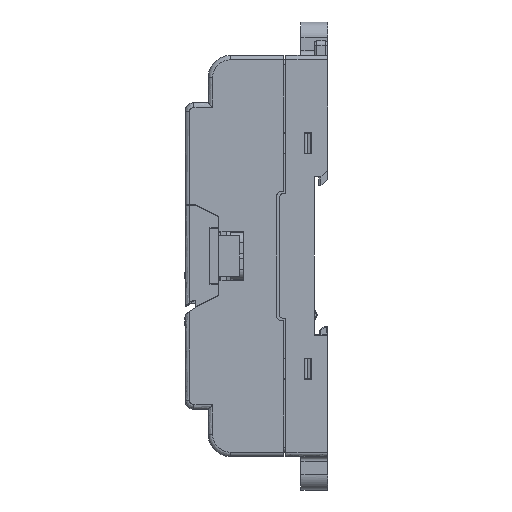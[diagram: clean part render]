
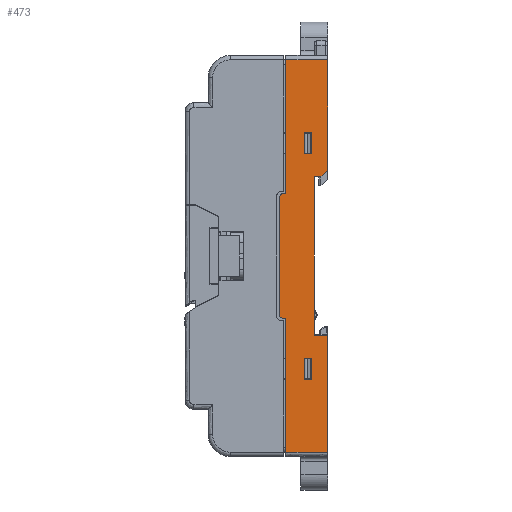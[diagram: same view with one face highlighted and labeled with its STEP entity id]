
A CAD part, left-side view. The second image highlights one B-rep face of the part: STEP entity #473.
In plain terms, the highlighted planar face has unit normal (-1, 0, 0).
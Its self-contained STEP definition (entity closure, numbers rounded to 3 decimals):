
#473=ADVANCED_FACE('',(#4188,#3246,#3247),#54160,.T.);
#3246=FACE_BOUND('',#7335,.T.);
#3247=FACE_BOUND('',#7336,.T.);
#4188=FACE_OUTER_BOUND('',#7334,.T.);
#7334=EDGE_LOOP('',(#13457,#13458,#13459,#13460,#13461,#13462,#13463,#13464,
#13465,#13466,#13467,#13468,#13469,#13470,#13471,#13472));
#7335=EDGE_LOOP('',(#13473,#13474,#13475,#13476));
#7336=EDGE_LOOP('',(#13477,#13478,#13479,#13480));
#13457=ORIENTED_EDGE('',*,*,#29467,.F.);
#13458=ORIENTED_EDGE('',*,*,#29398,.T.);
#13459=ORIENTED_EDGE('',*,*,#30925,.T.);
#13460=ORIENTED_EDGE('',*,*,#30787,.T.);
#13461=ORIENTED_EDGE('',*,*,#30589,.F.);
#13462=ORIENTED_EDGE('',*,*,#30786,.T.);
#13463=ORIENTED_EDGE('',*,*,#30860,.T.);
#13464=ORIENTED_EDGE('',*,*,#29432,.T.);
#13465=ORIENTED_EDGE('',*,*,#30785,.T.);
#13466=ORIENTED_EDGE('',*,*,#30084,.F.);
#13467=ORIENTED_EDGE('',*,*,#30784,.T.);
#13468=ORIENTED_EDGE('',*,*,#30853,.T.);
#13469=ORIENTED_EDGE('',*,*,#30510,.F.);
#13470=ORIENTED_EDGE('',*,*,#30850,.T.);
#13471=ORIENTED_EDGE('',*,*,#30783,.T.);
#13472=ORIENTED_EDGE('',*,*,#30210,.F.);
#13473=ORIENTED_EDGE('',*,*,#30791,.T.);
#13474=ORIENTED_EDGE('',*,*,#30790,.T.);
#13475=ORIENTED_EDGE('',*,*,#30789,.T.);
#13476=ORIENTED_EDGE('',*,*,#30788,.T.);
#13477=ORIENTED_EDGE('',*,*,#30782,.T.);
#13478=ORIENTED_EDGE('',*,*,#30771,.T.);
#13479=ORIENTED_EDGE('',*,*,#30792,.T.);
#13480=ORIENTED_EDGE('',*,*,#30781,.T.);
#29398=EDGE_CURVE('',#47605,#47606,#39313,.T.);
#29432=EDGE_CURVE('',#47661,#47655,#39347,.T.);
#29467=EDGE_CURVE('',#47605,#47708,#39380,.T.);
#30084=EDGE_CURVE('',#48214,#48213,#39983,.T.);
#30210=EDGE_CURVE('',#47708,#48316,#40109,.T.);
#30510=EDGE_CURVE('',#48474,#48475,#40399,.T.);
#30589=EDGE_CURVE('',#48569,#48568,#40476,.T.);
#30771=EDGE_CURVE('',#48668,#48669,#40596,.T.);
#30781=EDGE_CURVE('',#48672,#48671,#40606,.T.);
#30782=EDGE_CURVE('',#48671,#48668,#40607,.T.);
#30783=EDGE_CURVE('',#48673,#48316,#40608,.T.);
#30784=EDGE_CURVE('',#48214,#48674,#40609,.T.);
#30785=EDGE_CURVE('',#47655,#48213,#40610,.T.);
#30786=EDGE_CURVE('',#48569,#48675,#40611,.T.);
#30787=EDGE_CURVE('',#48676,#48568,#40612,.T.);
#30788=EDGE_CURVE('',#48677,#48678,#40613,.T.);
#30789=EDGE_CURVE('',#48679,#48677,#40614,.T.);
#30790=EDGE_CURVE('',#48680,#48679,#40615,.T.);
#30791=EDGE_CURVE('',#48678,#48680,#40616,.T.);
#30792=EDGE_CURVE('',#48669,#48672,#40617,.T.);
#30850=EDGE_CURVE('',#48474,#48673,#38451,.T.);
#30853=EDGE_CURVE('',#48674,#48475,#38453,.T.);
#30860=EDGE_CURVE('',#48675,#47661,#40659,.T.);
#30925=EDGE_CURVE('',#47606,#48676,#38461,.T.);
#38451=(
BOUNDED_CURVE()
B_SPLINE_CURVE(2,(#77261,#77262,#77263),.UNSPECIFIED.,.F.,.F.)
B_SPLINE_CURVE_WITH_KNOTS((3,3),(0.,1.571),.UNSPECIFIED.)
CURVE()
GEOMETRIC_REPRESENTATION_ITEM()
RATIONAL_B_SPLINE_CURVE((1.,0.707,1.))
REPRESENTATION_ITEM('')
);
#38453=(
BOUNDED_CURVE()
B_SPLINE_CURVE(2,(#77269,#77270,#77271),.UNSPECIFIED.,.F.,.F.)
B_SPLINE_CURVE_WITH_KNOTS((3,3),(0.,1.571),.UNSPECIFIED.)
CURVE()
GEOMETRIC_REPRESENTATION_ITEM()
RATIONAL_B_SPLINE_CURVE((1.,0.707,1.))
REPRESENTATION_ITEM('')
);
#38461=(
BOUNDED_CURVE()
B_SPLINE_CURVE(2,(#77455,#77456,#77457),.UNSPECIFIED.,.F.,.F.)
B_SPLINE_CURVE_WITH_KNOTS((3,3),(0.,0.314),.UNSPECIFIED.)
CURVE()
GEOMETRIC_REPRESENTATION_ITEM()
RATIONAL_B_SPLINE_CURVE((1.,0.707,1.))
REPRESENTATION_ITEM('')
);
#39313=B_SPLINE_CURVE_WITH_KNOTS('',1,(#74085,#74086),.UNSPECIFIED.,.F.,
 .F.,(2,2),(0.,26.05),.UNSPECIFIED.);
#39347=B_SPLINE_CURVE_WITH_KNOTS('',1,(#74153,#74154),.UNSPECIFIED.,.F.,
 .F.,(2,2),(0.,24.75),.UNSPECIFIED.);
#39380=B_SPLINE_CURVE_WITH_KNOTS('',1,(#74259,#74260),.UNSPECIFIED.,.F.,
 .F.,(2,2),(-9.4,0.),.UNSPECIFIED.);
#39983=B_SPLINE_CURVE_WITH_KNOTS('',1,(#75539,#75540),.UNSPECIFIED.,.F.,
 .F.,(2,2),(-30.,0.),.UNSPECIFIED.);
#40109=B_SPLINE_CURVE_WITH_KNOTS('',1,(#75791,#75792),.UNSPECIFIED.,.F.,
 .F.,(2,2),(-30.,0.),.UNSPECIFIED.);
#40399=B_SPLINE_CURVE_WITH_KNOTS('',1,(#76401,#76402),.UNSPECIFIED.,.F.,
 .F.,(2,2),(-26.,0.),.UNSPECIFIED.);
#40476=B_SPLINE_CURVE_WITH_KNOTS('',1,(#76561,#76562),.UNSPECIFIED.,.F.,
 .F.,(2,2),(-35.5,0.),.UNSPECIFIED.);
#40596=B_SPLINE_CURVE_WITH_KNOTS('',1,(#77077,#77078),.UNSPECIFIED.,.F.,
 .F.,(2,2),(0.,1.65),.UNSPECIFIED.);
#40606=B_SPLINE_CURVE_WITH_KNOTS('',1,(#77097,#77098),.UNSPECIFIED.,.F.,
 .F.,(2,2),(0.,1.65),.UNSPECIFIED.);
#40607=B_SPLINE_CURVE_WITH_KNOTS('',1,(#77099,#77100),.UNSPECIFIED.,.F.,
 .F.,(2,2),(0.,4.75),.UNSPECIFIED.);
#40608=B_SPLINE_CURVE_WITH_KNOTS('',1,(#77101,#77102),.UNSPECIFIED.,.F.,
 .F.,(2,2),(-0.5,0.),.UNSPECIFIED.);
#40609=B_SPLINE_CURVE_WITH_KNOTS('',1,(#77103,#77104),.UNSPECIFIED.,.F.,
 .F.,(2,2),(-0.5,0.),.UNSPECIFIED.);
#40610=B_SPLINE_CURVE_WITH_KNOTS('',1,(#77105,#77106),.UNSPECIFIED.,.F.,
 .F.,(2,2),(-9.4,0.),.UNSPECIFIED.);
#40611=B_SPLINE_CURVE_WITH_KNOTS('',1,(#77107,#77108),.UNSPECIFIED.,.F.,
 .F.,(2,2),(-1.5,0.),.UNSPECIFIED.);
#40612=B_SPLINE_CURVE_WITH_KNOTS('',1,(#77109,#77110),.UNSPECIFIED.,.F.,
 .F.,(2,2),(-2.8,0.),.UNSPECIFIED.);
#40613=B_SPLINE_CURVE_WITH_KNOTS('',1,(#77111,#77112),.UNSPECIFIED.,.F.,
 .F.,(2,2),(-4.75,0.),.UNSPECIFIED.);
#40614=B_SPLINE_CURVE_WITH_KNOTS('',1,(#77113,#77114),.UNSPECIFIED.,.F.,
 .F.,(2,2),(-1.65,0.),.UNSPECIFIED.);
#40615=B_SPLINE_CURVE_WITH_KNOTS('',1,(#77115,#77116),.UNSPECIFIED.,.F.,
 .F.,(2,2),(-4.75,0.),.UNSPECIFIED.);
#40616=B_SPLINE_CURVE_WITH_KNOTS('',1,(#77117,#77118),.UNSPECIFIED.,.F.,
 .F.,(2,2),(-1.65,0.),.UNSPECIFIED.);
#40617=B_SPLINE_CURVE_WITH_KNOTS('',1,(#77119,#77120),.UNSPECIFIED.,.F.,
 .F.,(2,2),(-4.75,0.),.UNSPECIFIED.);
#40659=B_SPLINE_CURVE_WITH_KNOTS('',1,(#77287,#77288),.UNSPECIFIED.,.F.,
 .F.,(2,2),(0.,2.121),.UNSPECIFIED.);
#47605=VERTEX_POINT('',#72876);
#47606=VERTEX_POINT('',#72877);
#47655=VERTEX_POINT('',#72926);
#47661=VERTEX_POINT('',#72932);
#47708=VERTEX_POINT('',#72979);
#48213=VERTEX_POINT('',#73484);
#48214=VERTEX_POINT('',#73485);
#48316=VERTEX_POINT('',#73587);
#48474=VERTEX_POINT('',#73745);
#48475=VERTEX_POINT('',#73746);
#48568=VERTEX_POINT('',#73839);
#48569=VERTEX_POINT('',#73840);
#48668=VERTEX_POINT('',#73939);
#48669=VERTEX_POINT('',#73940);
#48671=VERTEX_POINT('',#73942);
#48672=VERTEX_POINT('',#73943);
#48673=VERTEX_POINT('',#73944);
#48674=VERTEX_POINT('',#73945);
#48675=VERTEX_POINT('',#73946);
#48676=VERTEX_POINT('',#73947);
#48677=VERTEX_POINT('',#73948);
#48678=VERTEX_POINT('',#73949);
#48679=VERTEX_POINT('',#73950);
#48680=VERTEX_POINT('',#73951);
#54160=PLANE('',#56778);
#56778=AXIS2_PLACEMENT_3D('',#68632,#59293,$);
#59293=DIRECTION('',(-1.,0.,0.));
#68632=CARTESIAN_POINT('',(-70.2,-1.301,-53.011));
#72876=CARTESIAN_POINT('',(-70.2,0.,-44.));
#72877=CARTESIAN_POINT('',(-70.2,0.,-17.95));
#72926=CARTESIAN_POINT('',(-70.2,0.,44.));
#72932=CARTESIAN_POINT('',(-70.2,0.,19.25));
#72979=CARTESIAN_POINT('',(-70.2,9.4,-44.));
#73484=CARTESIAN_POINT('',(-70.2,9.4,44.));
#73485=CARTESIAN_POINT('',(-70.2,9.4,14.));
#73587=CARTESIAN_POINT('',(-70.2,9.4,-14.));
#73745=CARTESIAN_POINT('',(-70.2,10.9,-13.));
#73746=CARTESIAN_POINT('',(-70.2,10.9,13.));
#73839=CARTESIAN_POINT('',(-70.2,3.,-17.75));
#73840=CARTESIAN_POINT('',(-70.2,3.,17.75));
#73939=CARTESIAN_POINT('',(-70.2,5.3,-22.925));
#73940=CARTESIAN_POINT('',(-70.2,3.65,-22.925));
#73942=CARTESIAN_POINT('',(-70.2,5.3,-27.675));
#73943=CARTESIAN_POINT('',(-70.2,3.65,-27.675));
#73944=CARTESIAN_POINT('',(-70.2,9.9,-14.));
#73945=CARTESIAN_POINT('',(-70.2,9.9,14.));
#73946=CARTESIAN_POINT('',(-70.2,1.5,17.75));
#73947=CARTESIAN_POINT('',(-70.2,0.2,-17.75));
#73948=CARTESIAN_POINT('',(-70.2,5.3,22.925));
#73949=CARTESIAN_POINT('',(-70.2,5.3,27.675));
#73950=CARTESIAN_POINT('',(-70.2,3.65,22.925));
#73951=CARTESIAN_POINT('',(-70.2,3.65,27.675));
#74085=CARTESIAN_POINT('',(-70.2,0.,-44.));
#74086=CARTESIAN_POINT('',(-70.2,0.,-17.95));
#74153=CARTESIAN_POINT('',(-70.2,0.,19.25));
#74154=CARTESIAN_POINT('',(-70.2,0.,44.));
#74259=CARTESIAN_POINT('',(-70.2,0.,-44.));
#74260=CARTESIAN_POINT('',(-70.2,9.4,-44.));
#75539=CARTESIAN_POINT('',(-70.2,9.4,14.));
#75540=CARTESIAN_POINT('',(-70.2,9.4,44.));
#75791=CARTESIAN_POINT('',(-70.2,9.4,-44.));
#75792=CARTESIAN_POINT('',(-70.2,9.4,-14.));
#76401=CARTESIAN_POINT('',(-70.2,10.9,-13.));
#76402=CARTESIAN_POINT('',(-70.2,10.9,13.));
#76561=CARTESIAN_POINT('',(-70.2,3.,17.75));
#76562=CARTESIAN_POINT('',(-70.2,3.,-17.75));
#77077=CARTESIAN_POINT('',(-70.2,5.3,-22.925));
#77078=CARTESIAN_POINT('',(-70.2,3.65,-22.925));
#77097=CARTESIAN_POINT('',(-70.2,3.65,-27.675));
#77098=CARTESIAN_POINT('',(-70.2,5.3,-27.675));
#77099=CARTESIAN_POINT('',(-70.2,5.3,-27.675));
#77100=CARTESIAN_POINT('',(-70.2,5.3,-22.925));
#77101=CARTESIAN_POINT('',(-70.2,9.9,-14.));
#77102=CARTESIAN_POINT('',(-70.2,9.4,-14.));
#77103=CARTESIAN_POINT('',(-70.2,9.4,14.));
#77104=CARTESIAN_POINT('',(-70.2,9.9,14.));
#77105=CARTESIAN_POINT('',(-70.2,0.,44.));
#77106=CARTESIAN_POINT('',(-70.2,9.4,44.));
#77107=CARTESIAN_POINT('',(-70.2,3.,17.75));
#77108=CARTESIAN_POINT('',(-70.2,1.5,17.75));
#77109=CARTESIAN_POINT('',(-70.2,0.2,-17.75));
#77110=CARTESIAN_POINT('',(-70.2,3.,-17.75));
#77111=CARTESIAN_POINT('',(-70.2,5.3,22.925));
#77112=CARTESIAN_POINT('',(-70.2,5.3,27.675));
#77113=CARTESIAN_POINT('',(-70.2,3.65,22.925));
#77114=CARTESIAN_POINT('',(-70.2,5.3,22.925));
#77115=CARTESIAN_POINT('',(-70.2,3.65,27.675));
#77116=CARTESIAN_POINT('',(-70.2,3.65,22.925));
#77117=CARTESIAN_POINT('',(-70.2,5.3,27.675));
#77118=CARTESIAN_POINT('',(-70.2,3.65,27.675));
#77119=CARTESIAN_POINT('',(-70.2,3.65,-22.925));
#77120=CARTESIAN_POINT('',(-70.2,3.65,-27.675));
#77261=CARTESIAN_POINT('',(-70.2,10.9,-13.));
#77262=CARTESIAN_POINT('',(-70.2,10.9,-14.));
#77263=CARTESIAN_POINT('',(-70.2,9.9,-14.));
#77269=CARTESIAN_POINT('',(-70.2,9.9,14.));
#77270=CARTESIAN_POINT('',(-70.2,10.9,14.));
#77271=CARTESIAN_POINT('',(-70.2,10.9,13.));
#77287=CARTESIAN_POINT('',(-70.2,1.5,17.75));
#77288=CARTESIAN_POINT('',(-70.2,0.,19.25));
#77455=CARTESIAN_POINT('',(-70.2,0.,-17.95));
#77456=CARTESIAN_POINT('',(-70.2,0.,-17.75));
#77457=CARTESIAN_POINT('',(-70.2,0.2,-17.75));
